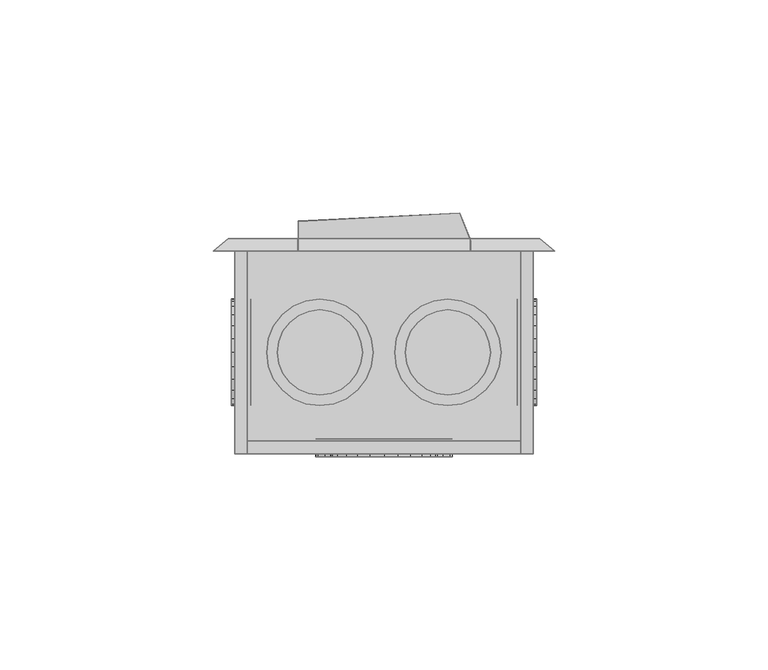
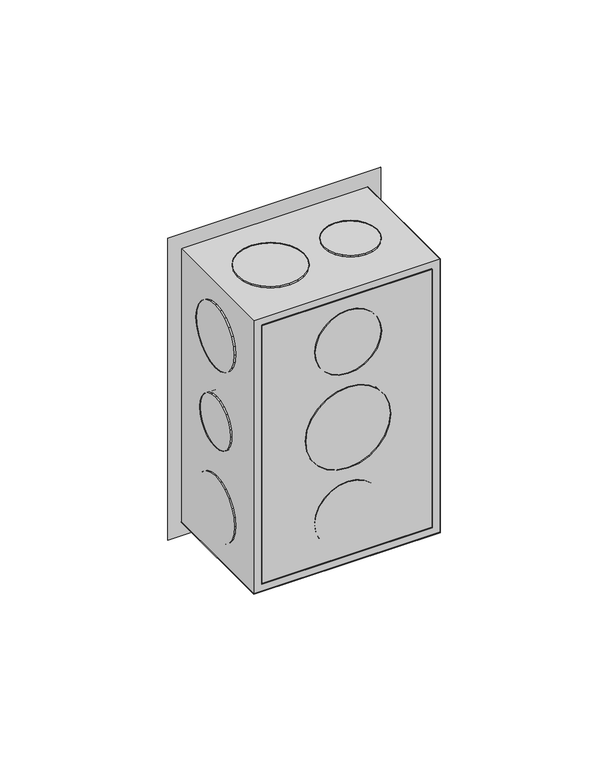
"""IFC4 building model written with IfcOpenShell, lengths in millimetres: proxy geometry,  210883 :  210883."""

from ifc_helpers import new_model, si_unit, origin, place, context, project, spatial, triangles, source, transform, mapped, element, save


def generic_models_cd19be02(model_context):
    return source(origin(), model_context, "Body", "Tessellation", [
        triangles([(10055.7001648, 29795.4999207, 1254.3000378), (10058.6999817, 29795.4999207, 1148.7000154), (10055.7001648, 29795.4999207, 1145.6999805), (10058.6999817, 29795.4999207, 1251.2999302), (10125.7005432, 29795.4999207, 1254.3000378), (10122.6995636, 29795.4999207, 1251.2999302), (10125.7005432, 29795.4999207, 1145.6999805), (10122.6995636, 29795.4999207, 1148.7000154), (10058.6999817, 29748.0004944, 1251.2999302), (10058.6999817, 29748.0004944, 1148.7000154), (10125.7005432, 29748.0004944, 1254.3000378), (10125.7005432, 29748.0004944, 1145.6999805), (10122.6995636, 29748.0004944, 1251.2999302), (10055.7001648, 29748.0004944, 1145.6999805), (10122.6995636, 29748.0004944, 1148.7000154), (10055.7001648, 29748.0004944, 1254.3000378), (10058.6999817, 29751.0003113, 1251.2999302), (10122.6995636, 29751.0003113, 1148.7000154), (10058.6999817, 29751.0003113, 1148.7000154), (10122.6995636, 29751.0003113, 1251.2999302), (10076.8000397, 29751.5002808, 1191.9999887), (10082.6996796, 29751.5002808, 1186.0999855), (10079.399881, 29751.5002808, 1188.6999722), (10075.2001373, 29751.5002808, 1195.8999687), (10086.4994476, 29751.5002808, 1184.5000105), (10074.7001678, 29751.5002808, 1200.0000092), (10090.700354, 29751.5002808, 1183.9999683), (10075.2001373, 29751.5002808, 1204.0999769), (10094.8001038, 29751.5002808, 1184.5000105), (10076.8000397, 29751.5002808, 1208.0000296), (10098.6998657, 29751.5002808, 1186.0999855), (10079.399881, 29751.5002808, 1211.2999735), (10101.9996643, 29751.5002808, 1188.6999722), (10082.6996796, 29751.5002808, 1213.9000328), (10104.4995117, 29751.5002808, 1191.9999887), (10086.4994476, 29751.5002808, 1215.5000078), (10106.1005768, 29751.5002808, 1195.8999687), (10090.700354, 29751.5002808, 1215.9999773), (10106.7005402, 29751.5002808, 1200.0000092), (10094.8001038, 29751.5002808, 1215.5000078), (10106.1005768, 29751.5002808, 1204.0999769), (10098.6998657, 29751.5002808, 1213.9000328), (10104.4995117, 29751.5002808, 1208.0000296), (10101.9996643, 29751.5002808, 1211.2999735), (10094.8001038, 29747.3005371, 1184.5000105), (10090.700354, 29747.3005371, 1183.9999683), (10086.4994476, 29747.3005371, 1184.5000105), (10082.6996796, 29747.3005371, 1186.0999855), (10079.399881, 29747.3005371, 1188.6999722), (10076.8000397, 29747.3005371, 1191.9999887), (10075.2001373, 29747.3005371, 1195.8999687), (10074.7001678, 29747.3005371, 1200.0000092), (10075.2001373, 29747.3005371, 1204.0999769), (10076.8000397, 29747.3005371, 1208.0000296), (10079.399881, 29747.3005371, 1211.2999735), (10082.6996796, 29747.3005371, 1213.9000328), (10086.4994476, 29747.3005371, 1215.5000078), (10090.700354, 29747.3005371, 1215.9999773), (10094.8001038, 29747.3005371, 1215.5000078), (10098.6998657, 29747.3005371, 1213.9000328), (10101.9996643, 29747.3005371, 1211.2999735), (10104.4995117, 29747.3005371, 1208.0000296), (10106.1005768, 29747.3005371, 1204.0999769), (10106.7005402, 29747.3005371, 1200.0000092), (10106.1005768, 29747.3005371, 1195.8999687), (10104.4995117, 29747.3005371, 1191.9999887), (10101.9996643, 29747.3005371, 1188.6999722), (10098.6998657, 29747.3005371, 1186.0999855), (10079.7998566, 29751.5002808, 1227.8000565), (10084.3995758, 29751.5002808, 1223.2000465), (10081.7997345, 29751.5002808, 1225.2000698), (10078.5999298, 29751.5002808, 1230.8000187), (10087.4005554, 29751.5002808, 1221.8999805), (10078.1999542, 29751.5002808, 1233.9999687), (10090.700354, 29751.5002808, 1221.500005), (10078.5999298, 29751.5002808, 1237.2000641), (10093.9001587, 29751.5002808, 1221.8999805), (10079.7998566, 29751.5002808, 1240.3000202), (10096.8999756, 29751.5002808, 1223.2000465), (10081.7997345, 29751.5002808, 1242.800013), (10099.4998169, 29751.5002808, 1225.2000698), (10101.4996948, 29751.5002808, 1227.8000565), (10084.3995758, 29751.5002808, 1244.8000362), (10087.4005554, 29751.5002808, 1246.0999569), (10102.6996216, 29751.5002808, 1230.8000187), (10090.700354, 29751.5002808, 1246.4999325), (10103.1995911, 29751.5002808, 1233.9999687), (10093.9001587, 29751.5002808, 1246.0999569), (10102.6996216, 29751.5002808, 1237.2000641), (10101.4996948, 29751.5002808, 1240.3000202), (10096.8999756, 29751.5002808, 1244.8000362), (10099.4998169, 29751.5002808, 1242.800013), (10102.6996216, 29747.3005371, 1230.8000187), (10101.4996948, 29747.3005371, 1227.8000565), (10099.4998169, 29747.3005371, 1225.2000698), (10096.8999756, 29747.3005371, 1223.2000465), (10093.9001587, 29747.3005371, 1221.8999805), (10090.700354, 29747.3005371, 1221.500005), (10087.4005554, 29747.3005371, 1221.8999805), (10084.3995758, 29747.3005371, 1223.2000465), (10081.7997345, 29747.3005371, 1225.2000698), (10079.7998566, 29747.3005371, 1227.8000565), (10078.5999298, 29747.3005371, 1230.8000187), (10078.1999542, 29747.3005371, 1233.9999687), (10078.5999298, 29747.3005371, 1237.2000641), (10079.7998566, 29747.3005371, 1240.3000202), (10081.7997345, 29747.3005371, 1242.800013), (10084.3995758, 29747.3005371, 1244.8000362), (10087.4005554, 29747.3005371, 1246.0999569), (10090.700354, 29747.3005371, 1246.4999325), (10093.9001587, 29747.3005371, 1246.0999569), (10096.8999756, 29747.3005371, 1244.8000362), (10099.4998169, 29747.3005371, 1242.800013), (10101.4996948, 29747.3005371, 1240.3000202), (10102.6996216, 29747.3005371, 1237.2000641), (10103.1995911, 29747.3005371, 1233.9999687), (10084.3995758, 29747.3005371, 1155.1999821), (10079.7998566, 29747.3005371, 1159.6999981), (10081.7997345, 29747.3005371, 1157.2000053), (10087.4005554, 29747.3005371, 1153.8999887), (10078.5999298, 29747.3005371, 1162.8000269), (10090.700354, 29747.3005371, 1153.5000132), (10078.1999542, 29747.3005371, 1165.9999769), (10093.9001587, 29747.3005371, 1153.8999887), (10078.5999298, 29747.3005371, 1169.1999996), (10096.8999756, 29747.3005371, 1155.1999821), (10079.7998566, 29747.3005371, 1172.2000345), (10099.4998169, 29747.3005371, 1157.2000053), (10081.7997345, 29747.3005371, 1174.8000212), (10101.4996948, 29747.3005371, 1159.6999981), (10084.3995758, 29747.3005371, 1176.7999718), (10102.6996216, 29747.3005371, 1162.8000269), (10087.4005554, 29747.3005371, 1178.0999651), (10090.700354, 29747.3005371, 1178.5000134), (10103.1995911, 29747.3005371, 1165.9999769), (10102.6996216, 29747.3005371, 1169.1999996), (10093.9001587, 29747.3005371, 1178.0999651), (10101.4996948, 29747.3005371, 1172.2000345), (10096.8999756, 29747.3005371, 1176.7999718), (10099.4998169, 29747.3005371, 1174.8000212), (10087.4005554, 29751.5002808, 1178.0999651), (10090.700354, 29751.5002808, 1178.5000134), (10084.3995758, 29751.5002808, 1176.7999718), (10081.7997345, 29751.5002808, 1174.8000212), (10079.7998566, 29751.5002808, 1172.2000345), (10078.5999298, 29751.5002808, 1169.1999996), (10078.1999542, 29751.5002808, 1165.9999769), (10078.5999298, 29751.5002808, 1162.8000269), (10079.7998566, 29751.5002808, 1159.6999981), (10081.7997345, 29751.5002808, 1157.2000053), (10084.3995758, 29751.5002808, 1155.1999821), (10087.4005554, 29751.5002808, 1153.8999887), (10090.700354, 29751.5002808, 1153.5000132), (10093.9001587, 29751.5002808, 1153.8999887), (10096.8999756, 29751.5002808, 1155.1999821), (10099.4998169, 29751.5002808, 1157.2000053), (10101.4996948, 29751.5002808, 1159.6999981), (10102.6996216, 29751.5002808, 1162.8000269), (10103.1995911, 29751.5002808, 1165.9999769), (10102.6996216, 29751.5002808, 1169.1999996), (10101.4996948, 29751.5002808, 1172.2000345), (10099.4998169, 29751.5002808, 1174.8000212), (10096.8999756, 29751.5002808, 1176.7999718), (10093.9001587, 29751.5002808, 1178.0999651), (10059.4999329, 29766.7993469, 1191.3000315), (10059.4999329, 29763.0995728, 1195.0000237), (10059.4999329, 29764.6994751, 1192.9000065), (10059.4999329, 29762.0996338, 1197.4000225), (10059.4999329, 29769.1992004, 1190.3000198), (10059.4999329, 29761.7996521, 1200.0000092), (10059.4999329, 29771.7990417, 1189.9999655), (10059.4999329, 29774.2988892, 1190.3000198), (10059.4999329, 29762.0996338, 1202.5999958), (10059.4999329, 29763.0995728, 1204.9999947), (10059.4999329, 29776.801062, 1191.3000315), (10059.4999329, 29764.6994751, 1207.1000118), (10059.4999329, 29778.8009399, 1192.9000065), (10059.4999329, 29780.4008423, 1195.0000237), (10059.4999329, 29766.7993469, 1208.6999868), (10059.4999329, 29781.4007813, 1197.4000225), (10059.4999329, 29769.1992004, 1209.6999985), (10059.4999329, 29781.8007568, 1200.0000092), (10059.4999329, 29771.7990417, 1209.9999802), (10059.4999329, 29781.4007813, 1202.5999958), (10059.4999329, 29774.2988892, 1209.6999985), (10059.4999329, 29776.801062, 1208.6999868), (10059.4999329, 29780.4008423, 1204.9999947), (10059.4999329, 29778.8009399, 1207.1000118), (10054.9002136, 29771.7990417, 1189.9999655), (10054.9002136, 29769.1992004, 1190.3000198), (10054.9002136, 29774.2988892, 1190.3000198), (10054.9002136, 29776.801062, 1191.3000315), (10054.9002136, 29778.8009399, 1192.9000065), (10054.9002136, 29780.4008423, 1195.0000237), (10054.9002136, 29781.4007813, 1197.4000225), (10054.9002136, 29781.8007568, 1200.0000092), (10054.9002136, 29781.4007813, 1202.5999958), (10054.9002136, 29780.4008423, 1204.9999947), (10054.9002136, 29778.8009399, 1207.1000118), (10054.9002136, 29776.801062, 1208.6999868), (10054.9002136, 29774.2988892, 1209.6999985), (10054.9002136, 29771.7990417, 1209.9999802), (10054.9002136, 29769.1992004, 1209.6999985), (10054.9002136, 29766.7993469, 1208.6999868), (10054.9002136, 29764.6994751, 1207.1000118), (10054.9002136, 29763.0995728, 1204.9999947), (10054.9002136, 29762.0996338, 1202.5999958), (10054.9002136, 29761.7996521, 1200.0000092), (10054.9002136, 29762.0996338, 1197.4000225), (10054.9002136, 29763.0995728, 1195.0000237), (10054.9002136, 29764.6994751, 1192.9000065), (10054.9002136, 29766.7993469, 1191.3000315), (10059.4999329, 29765.4994263, 1223.2000465), (10059.4999329, 29760.899707, 1227.8000565), (10059.4999329, 29762.899585, 1225.2000698), (10059.4999329, 29768.4992432, 1221.8999805), (10059.4999329, 29759.6997803, 1230.8000187), (10059.4999329, 29759.2998047, 1233.9999687), (10059.4999329, 29771.7990417, 1221.500005), (10059.4999329, 29774.9988464, 1221.8999805), (10059.4999329, 29759.6997803, 1237.2000641), (10059.4999329, 29760.899707, 1240.3000202), (10059.4999329, 29778.0009888, 1223.2000465), (10059.4999329, 29780.6008301, 1225.2000698), (10059.4999329, 29762.899585, 1242.800013), (10059.4999329, 29782.600708, 1227.8000565), (10059.4999329, 29765.4994263, 1244.8000362), (10059.4999329, 29783.8006348, 1230.8000187), (10059.4999329, 29768.4992432, 1246.0999569), (10059.4999329, 29784.3006042, 1233.9999687), (10059.4999329, 29771.7990417, 1246.4999325), (10059.4999329, 29783.8006348, 1237.2000641), (10059.4999329, 29774.9988464, 1246.0999569), (10059.4999329, 29782.600708, 1240.3000202), (10059.4999329, 29778.0009888, 1244.8000362), (10059.4999329, 29780.6008301, 1242.800013), (10054.9002136, 29771.7990417, 1221.500005), (10054.9002136, 29768.4992432, 1221.8999805), (10054.9002136, 29774.9988464, 1221.8999805), (10054.9002136, 29778.0009888, 1223.2000465), (10054.9002136, 29780.6008301, 1225.2000698), (10054.9002136, 29782.600708, 1227.8000565), (10054.9002136, 29783.8006348, 1230.8000187), (10054.9002136, 29784.3006042, 1233.9999687), (10054.9002136, 29783.8006348, 1237.2000641), (10054.9002136, 29782.600708, 1240.3000202), (10054.9002136, 29780.6008301, 1242.800013), (10054.9002136, 29778.0009888, 1244.8000362), (10054.9002136, 29774.9988464, 1246.0999569), (10054.9002136, 29771.7990417, 1246.4999325), (10054.9002136, 29768.4992432, 1246.0999569), (10054.9002136, 29765.4994263, 1244.8000362), (10054.9002136, 29762.899585, 1242.800013), (10054.9002136, 29760.899707, 1240.3000202), (10054.9002136, 29759.6997803, 1237.2000641), (10054.9002136, 29759.2998047, 1233.9999687), (10054.9002136, 29759.6997803, 1230.8000187), (10054.9002136, 29760.899707, 1227.8000565), (10054.9002136, 29762.899585, 1225.2000698), (10054.9002136, 29765.4994263, 1223.2000465), (10054.9002136, 29760.899707, 1159.6999981), (10054.9002136, 29765.4994263, 1155.1999821), (10054.9002136, 29762.899585, 1157.2000053), (10054.9002136, 29759.6997803, 1162.8000269), (10054.9002136, 29768.4992432, 1153.8999887), (10054.9002136, 29759.2998047, 1165.9999769), (10054.9002136, 29771.7990417, 1153.5000132), (10054.9002136, 29759.6997803, 1169.1999996), (10054.9002136, 29774.9988464, 1153.8999887), (10054.9002136, 29760.899707, 1172.2000345), (10054.9002136, 29778.0009888, 1155.1999821), (10054.9002136, 29762.899585, 1174.8000212), (10054.9002136, 29780.6008301, 1157.2000053), (10054.9002136, 29765.4994263, 1176.7999718), (10054.9002136, 29782.600708, 1159.6999981), (10054.9002136, 29768.4992432, 1178.0999651), (10054.9002136, 29783.8006348, 1162.8000269), (10054.9002136, 29771.7990417, 1178.5000134), (10054.9002136, 29784.3006042, 1165.9999769), (10054.9002136, 29774.9988464, 1178.0999651), (10054.9002136, 29783.8006348, 1169.1999996), (10054.9002136, 29778.0009888, 1176.7999718), (10054.9002136, 29782.600708, 1172.2000345), (10054.9002136, 29780.6008301, 1174.8000212), (10059.4999329, 29768.4992432, 1178.0999651), (10059.4999329, 29771.7990417, 1178.5000134), (10059.4999329, 29774.9988464, 1178.0999651), (10059.4999329, 29778.0009888, 1176.7999718), (10059.4999329, 29780.6008301, 1174.8000212), (10059.4999329, 29782.600708, 1172.2000345), (10059.4999329, 29783.8006348, 1169.1999996), (10059.4999329, 29784.3006042, 1165.9999769), (10059.4999329, 29783.8006348, 1162.8000269), (10059.4999329, 29782.600708, 1159.6999981), (10059.4999329, 29780.6008301, 1157.2000053), (10059.4999329, 29778.0009888, 1155.1999821), (10059.4999329, 29774.9988464, 1153.8999887), (10059.4999329, 29771.7990417, 1153.5000132), (10059.4999329, 29768.4992432, 1153.8999887), (10059.4999329, 29765.4994263, 1155.1999821), (10059.4999329, 29762.899585, 1157.2000053), (10059.4999329, 29760.899707, 1159.6999981), (10059.4999329, 29759.6997803, 1162.8000269), (10059.4999329, 29759.2998047, 1165.9999769), (10059.4999329, 29759.6997803, 1169.1999996), (10059.4999329, 29760.899707, 1172.2000345), (10059.4999329, 29762.899585, 1174.8000212), (10059.4999329, 29765.4994263, 1176.7999718), (10121.8996124, 29763.0995728, 1195.0000237), (10121.8996124, 29766.7993469, 1191.3000315), (10121.8996124, 29764.6994751, 1192.9000065), (10121.8996124, 29762.0996338, 1197.4000225), (10121.8996124, 29769.1992004, 1190.3000198), (10121.8996124, 29761.7996521, 1200.0000092), (10121.8996124, 29771.7990417, 1189.9999655), (10121.8996124, 29762.0996338, 1202.5999958), (10121.8996124, 29774.2988892, 1190.3000198), (10121.8996124, 29763.0995728, 1204.9999947), (10121.8996124, 29776.801062, 1191.3000315), (10121.8996124, 29764.6994751, 1207.1000118), (10121.8996124, 29778.8009399, 1192.9000065), (10121.8996124, 29766.7993469, 1208.6999868), (10121.8996124, 29780.4008423, 1195.0000237), (10121.8996124, 29769.1992004, 1209.6999985), (10121.8996124, 29781.4007813, 1197.4000225), (10121.8996124, 29781.8007568, 1200.0000092), (10121.8996124, 29771.7990417, 1209.9999802), (10121.8996124, 29774.2988892, 1209.6999985), (10121.8996124, 29781.4007813, 1202.5999958), (10121.8996124, 29776.801062, 1208.6999868), (10121.8996124, 29780.4008423, 1204.9999947), (10121.8996124, 29778.8009399, 1207.1000118), (10126.5004944, 29769.1992004, 1209.6999985), (10126.5004944, 29771.7990417, 1209.9999802), (10126.5004944, 29774.2988892, 1209.6999985), (10126.5004944, 29776.801062, 1208.6999868), (10126.5004944, 29778.8009399, 1207.1000118), (10126.5004944, 29780.4008423, 1204.9999947), (10126.5004944, 29781.4007813, 1202.5999958), (10126.5004944, 29781.8007568, 1200.0000092), (10126.5004944, 29781.4007813, 1197.4000225), (10126.5004944, 29780.4008423, 1195.0000237), (10126.5004944, 29778.8009399, 1192.9000065), (10126.5004944, 29776.801062, 1191.3000315), (10126.5004944, 29774.2988892, 1190.3000198), (10126.5004944, 29771.7990417, 1189.9999655), (10126.5004944, 29769.1992004, 1190.3000198), (10126.5004944, 29766.7993469, 1191.3000315), (10126.5004944, 29764.6994751, 1192.9000065), (10126.5004944, 29763.0995728, 1195.0000237), (10126.5004944, 29762.0996338, 1197.4000225), (10126.5004944, 29761.7996521, 1200.0000092), (10126.5004944, 29762.0996338, 1202.5999958), (10126.5004944, 29763.0995728, 1204.9999947), (10126.5004944, 29764.6994751, 1207.1000118), (10126.5004944, 29766.7993469, 1208.6999868), (10121.8996124, 29760.899707, 1159.6999981), (10121.8996124, 29765.4994263, 1155.1999821), (10121.8996124, 29762.899585, 1157.2000053), (10121.8996124, 29759.6997803, 1162.8000269), (10121.8996124, 29768.4992432, 1153.8999887), (10121.8996124, 29759.2998047, 1165.9999769), (10121.8996124, 29771.7990417, 1153.5000132), (10121.8996124, 29759.6997803, 1169.1999996), (10121.8996124, 29774.9988464, 1153.8999887), (10121.8996124, 29760.899707, 1172.2000345), (10121.8996124, 29778.0009888, 1155.1999821), (10121.8996124, 29762.899585, 1174.8000212), (10121.8996124, 29780.6008301, 1157.2000053), (10121.8996124, 29765.4994263, 1176.7999718), (10121.8996124, 29782.600708, 1159.6999981), (10121.8996124, 29768.4992432, 1178.0999651), (10121.8996124, 29783.8006348, 1162.8000269), (10121.8996124, 29771.7990417, 1178.5000134), (10121.8996124, 29784.3006042, 1165.9999769), (10121.8996124, 29774.9988464, 1178.0999651), (10121.8996124, 29783.8006348, 1169.1999996), (10121.8996124, 29778.0009888, 1176.7999718), (10121.8996124, 29782.600708, 1172.2000345), (10121.8996124, 29780.6008301, 1174.8000212), (10126.5004944, 29768.4992432, 1178.0999651), (10126.5004944, 29771.7990417, 1178.5000134), (10126.5004944, 29774.9988464, 1178.0999651), (10126.5004944, 29778.0009888, 1176.7999718), (10126.5004944, 29780.6008301, 1174.8000212), (10126.5004944, 29782.600708, 1172.2000345), (10126.5004944, 29783.8006348, 1169.1999996), (10126.5004944, 29784.3006042, 1165.9999769), (10126.5004944, 29783.8006348, 1162.8000269), (10126.5004944, 29782.600708, 1159.6999981), (10126.5004944, 29780.6008301, 1157.2000053), (10126.5004944, 29778.0009888, 1155.1999821), (10126.5004944, 29774.9988464, 1153.8999887), (10126.5004944, 29771.7990417, 1153.5000132), (10126.5004944, 29768.4992432, 1153.8999887), (10126.5004944, 29765.4994263, 1155.1999821), (10126.5004944, 29762.899585, 1157.2000053), (10126.5004944, 29760.899707, 1159.6999981), (10126.5004944, 29759.6997803, 1162.8000269), (10126.5004944, 29759.2998047, 1165.9999769), (10126.5004944, 29759.6997803, 1169.1999996), (10126.5004944, 29760.899707, 1172.2000345), (10126.5004944, 29762.899585, 1174.8000212), (10126.5004944, 29765.4994263, 1176.7999718), (10126.5004944, 29765.4994263, 1223.2000465), (10126.5004944, 29760.899707, 1227.8000565), (10126.5004944, 29762.899585, 1225.2000698), (10126.5004944, 29768.4992432, 1221.8999805), (10126.5004944, 29759.6997803, 1230.8000187), (10126.5004944, 29759.2998047, 1233.9999687), (10126.5004944, 29771.7990417, 1221.500005), (10126.5004944, 29774.9988464, 1221.8999805), (10126.5004944, 29759.6997803, 1237.2000641), (10126.5004944, 29760.899707, 1240.3000202), (10126.5004944, 29778.0009888, 1223.2000465), (10126.5004944, 29780.6008301, 1225.2000698), (10126.5004944, 29762.899585, 1242.800013), (10126.5004944, 29782.600708, 1227.8000565), (10126.5004944, 29765.4994263, 1244.8000362), (10126.5004944, 29783.8006348, 1230.8000187), (10126.5004944, 29768.4992432, 1246.0999569), (10126.5004944, 29784.3006042, 1233.9999687), (10126.5004944, 29771.7990417, 1246.4999325), (10126.5004944, 29783.8006348, 1237.2000641), (10126.5004944, 29774.9988464, 1246.0999569), (10126.5004944, 29782.600708, 1240.3000202), (10126.5004944, 29778.0009888, 1244.8000362), (10126.5004944, 29780.6008301, 1242.800013), (10121.8996124, 29771.7990417, 1221.500005), (10121.8996124, 29768.4992432, 1221.8999805), (10121.8996124, 29774.9988464, 1221.8999805), (10121.8996124, 29778.0009888, 1223.2000465), (10121.8996124, 29780.6008301, 1225.2000698), (10121.8996124, 29782.600708, 1227.8000565), (10121.8996124, 29783.8006348, 1230.8000187), (10121.8996124, 29784.3006042, 1233.9999687), (10121.8996124, 29783.8006348, 1237.2000641), (10121.8996124, 29782.600708, 1240.3000202), (10121.8996124, 29780.6008301, 1242.800013), (10121.8996124, 29778.0009888, 1244.8000362), (10121.8996124, 29774.9988464, 1246.0999569), (10121.8996124, 29771.7990417, 1246.4999325), (10121.8996124, 29768.4992432, 1246.0999569), (10121.8996124, 29765.4994263, 1244.8000362), (10121.8996124, 29762.899585, 1242.800013), (10121.8996124, 29760.899707, 1240.3000202), (10121.8996124, 29759.6997803, 1237.2000641), (10121.8996124, 29759.2998047, 1233.9999687), (10121.8996124, 29759.6997803, 1230.8000187), (10121.8996124, 29760.899707, 1227.8000565), (10121.8996124, 29762.899585, 1225.2000698), (10121.8996124, 29765.4994263, 1223.2000465), (10064.7996094, 29765.4994263, 1250.9999485), (10069.4004913, 29760.899707, 1250.9999485), (10066.7994873, 29762.899585, 1250.9999485), (10063.5996826, 29768.4992432, 1250.9999485), (10072.4003082, 29759.6997803, 1250.9999485), (10075.7001068, 29759.2998047, 1250.9999485), (10063.199707, 29771.7990417, 1250.9999485), (10063.5996826, 29774.9988464, 1250.9999485), (10078.8999115, 29759.6997803, 1250.9999485), (10081.8997284, 29760.899707, 1250.9999485), (10064.7996094, 29778.0009888, 1250.9999485), (10066.7994873, 29780.6008301, 1250.9999485), (10084.4995697, 29762.899585, 1250.9999485), (10086.4994476, 29765.4994263, 1250.9999485), (10069.4004913, 29782.600708, 1250.9999485), (10072.4003082, 29783.8006348, 1250.9999485), (10087.7005371, 29768.4992432, 1250.9999485), (10075.7001068, 29784.3006042, 1250.9999485), (10088.2005066, 29771.7990417, 1250.9999485), (10078.8999115, 29783.8006348, 1250.9999485), (10087.7005371, 29774.9988464, 1250.9999485), (10086.4994476, 29778.0009888, 1250.9999485), (10081.8997284, 29782.600708, 1250.9999485), (10084.4995697, 29780.6008301, 1250.9999485), (10075.7001068, 29759.2998047, 1255.1999828), (10078.8999115, 29759.6997803, 1255.1999828), (10072.4003082, 29759.6997803, 1255.1999828), (10069.4004913, 29760.899707, 1255.1999828), (10066.7994873, 29762.899585, 1255.1999828), (10064.7996094, 29765.4994263, 1255.1999828), (10063.5996826, 29768.4992432, 1255.1999828), (10063.199707, 29771.7990417, 1255.1999828), (10063.5996826, 29774.9988464, 1255.1999828), (10064.7996094, 29778.0009888, 1255.1999828), (10066.7994873, 29780.6008301, 1255.1999828), (10069.4004913, 29782.600708, 1255.1999828), (10072.4003082, 29783.8006348, 1255.1999828), (10075.7001068, 29784.3006042, 1255.1999828), (10078.8999115, 29783.8006348, 1255.1999828), (10081.8997284, 29782.600708, 1255.1999828), (10084.4995697, 29780.6008301, 1255.1999828), (10086.4994476, 29778.0009888, 1255.1999828), (10087.7005371, 29774.9988464, 1255.1999828), (10088.2005066, 29771.7990417, 1255.1999828), (10087.7005371, 29768.4992432, 1255.1999828), (10086.4994476, 29765.4994263, 1255.1999828), (10084.4995697, 29762.899585, 1255.1999828), (10081.8997284, 29760.899707, 1255.1999828), (10096.9999695, 29766.7993469, 1250.9999485), (10100.6997437, 29763.0995728, 1250.9999485), (10098.5998718, 29764.6994751, 1250.9999485), (10103.0995972, 29762.0996338, 1250.9999485), (10096.0000305, 29769.1992004, 1250.9999485), (10105.6994385, 29761.7996521, 1250.9999485), (10095.7000488, 29771.7990417, 1250.9999485), (10096.0000305, 29774.2988892, 1250.9999485), (10108.3004425, 29762.0996338, 1250.9999485), (10110.700296, 29763.0995728, 1250.9999485), (10096.9999695, 29776.801062, 1250.9999485), (10112.700174, 29764.6994751, 1250.9999485), (10098.5998718, 29778.8009399, 1250.9999485), (10100.6997437, 29780.4008423, 1250.9999485), (10114.3000763, 29766.7993469, 1250.9999485), (10115.3000153, 29769.1992004, 1250.9999485), (10103.0995972, 29781.4007813, 1250.9999485), (10105.6994385, 29781.8007568, 1250.9999485), (10115.6999908, 29771.7990417, 1250.9999485), (10108.3004425, 29781.4007813, 1250.9999485), (10115.3000153, 29774.2988892, 1250.9999485), (10110.700296, 29780.4008423, 1250.9999485), (10114.3000763, 29776.801062, 1250.9999485), (10112.700174, 29778.8009399, 1250.9999485), (10108.3004425, 29762.0996338, 1255.1999828), (10110.700296, 29763.0995728, 1255.1999828), (10105.6994385, 29761.7996521, 1255.1999828), (10103.0995972, 29762.0996338, 1255.1999828), (10100.6997437, 29763.0995728, 1255.1999828), (10098.5998718, 29764.6994751, 1255.1999828), (10096.9999695, 29766.7993469, 1255.1999828), (10096.0000305, 29769.1992004, 1255.1999828), (10095.7000488, 29771.7990417, 1255.1999828), (10096.0000305, 29774.2988892, 1255.1999828), (10096.9999695, 29776.801062, 1255.1999828), (10098.5998718, 29778.8009399, 1255.1999828), (10100.6997437, 29780.4008423, 1255.1999828), (10103.0995972, 29781.4007813, 1255.1999828), (10105.6994385, 29781.8007568, 1255.1999828), (10108.3004425, 29781.4007813, 1255.1999828), (10110.700296, 29780.4008423, 1255.1999828), (10112.700174, 29778.8009399, 1255.1999828), (10114.3000763, 29776.801062, 1255.1999828), (10115.3000153, 29774.2988892, 1255.1999828), (10115.6999908, 29771.7990417, 1255.1999828), (10115.3000153, 29769.1992004, 1255.1999828), (10114.3000763, 29766.7993469, 1255.1999828), (10112.700174, 29764.6994751, 1255.1999828), (10066.9994751, 29766.7993469, 1144.8000355), (10070.700412, 29763.0995728, 1144.8000355), (10068.6005402, 29764.6994751, 1144.8000355), (10073.1002655, 29762.0996338, 1144.8000355), (10065.9995361, 29769.1992004, 1144.8000355), (10075.7001068, 29761.7996521, 1144.8000355), (10065.6995544, 29771.7990417, 1144.8000355), (10065.9995361, 29774.2988892, 1144.8000355), (10078.2999481, 29762.0996338, 1144.8000355), (10080.6998016, 29763.0995728, 1144.8000355), (10066.9994751, 29776.801062, 1144.8000355), (10082.6996796, 29764.6994751, 1144.8000355), (10068.6005402, 29778.8009399, 1144.8000355), (10070.700412, 29780.4008423, 1144.8000355), (10084.2995819, 29766.7993469, 1144.8000355), (10085.2995209, 29769.1992004, 1144.8000355), (10073.1002655, 29781.4007813, 1144.8000355), (10075.7001068, 29781.8007568, 1144.8000355), (10085.6994965, 29771.7990417, 1144.8000355), (10078.2999481, 29781.4007813, 1144.8000355), (10085.2995209, 29774.2988892, 1144.8000355), (10080.6998016, 29780.4008423, 1144.8000355), (10084.2995819, 29776.801062, 1144.8000355), (10082.6996796, 29778.8009399, 1144.8000355), (10073.1002655, 29762.0996338, 1149.099991), (10075.7001068, 29761.7996521, 1149.099991), (10070.700412, 29763.0995728, 1149.099991), (10068.6005402, 29764.6994751, 1149.099991), (10066.9994751, 29766.7993469, 1149.099991), (10065.9995361, 29769.1992004, 1149.099991), (10065.6995544, 29771.7990417, 1149.099991), (10065.9995361, 29774.2988892, 1149.099991), (10066.9994751, 29776.801062, 1149.099991), (10068.6005402, 29778.8009399, 1149.099991), (10070.700412, 29780.4008423, 1149.099991), (10073.1002655, 29781.4007813, 1149.099991), (10075.7001068, 29781.8007568, 1149.099991), (10078.2999481, 29781.4007813, 1149.099991), (10080.6998016, 29780.4008423, 1149.099991), (10082.6996796, 29778.8009399, 1149.099991), (10084.2995819, 29776.801062, 1149.099991), (10085.2995209, 29774.2988892, 1149.099991), (10085.6994965, 29771.7990417, 1149.099991), (10085.2995209, 29769.1992004, 1149.099991), (10084.2995819, 29766.7993469, 1149.099991), (10082.6996796, 29764.6994751, 1149.099991), (10080.6998016, 29763.0995728, 1149.099991), (10078.2999481, 29762.0996338, 1149.099991), (10094.8001038, 29765.4994263, 1144.8000355), (10099.399823, 29760.899707, 1144.8000355), (10096.7999817, 29762.899585, 1144.8000355), (10093.600177, 29768.4992432, 1144.8000355), (10102.3996399, 29759.6997803, 1144.8000355), (10105.6994385, 29759.2998047, 1144.8000355), (10093.2002014, 29771.7990417, 1144.8000355), (10093.600177, 29774.9988464, 1144.8000355), (10108.9004059, 29759.6997803, 1144.8000355), (10111.9002228, 29760.899707, 1144.8000355), (10094.8001038, 29778.0009888, 1144.8000355), (10096.7999817, 29780.6008301, 1144.8000355), (10114.5000641, 29762.899585, 1144.8000355), (10116.499942, 29765.4994263, 1144.8000355), (10099.399823, 29782.600708, 1144.8000355), (10102.3996399, 29783.8006348, 1144.8000355), (10117.6998688, 29768.4992432, 1144.8000355), (10105.6994385, 29784.3006042, 1144.8000355), (10118.1998383, 29771.7990417, 1144.8000355), (10108.9004059, 29783.8006348, 1144.8000355), (10117.6998688, 29774.9988464, 1144.8000355), (10116.499942, 29778.0009888, 1144.8000355), (10111.9002228, 29782.600708, 1144.8000355), (10114.5000641, 29780.6008301, 1144.8000355), (10108.9004059, 29759.6997803, 1149.099991), (10111.9002228, 29760.899707, 1149.099991), (10105.6994385, 29759.2998047, 1149.099991), (10102.3996399, 29759.6997803, 1149.099991), (10099.399823, 29760.899707, 1149.099991), (10096.7999817, 29762.899585, 1149.099991), (10094.8001038, 29765.4994263, 1149.099991), (10093.600177, 29768.4992432, 1149.099991), (10093.2002014, 29771.7990417, 1149.099991), (10093.600177, 29774.9988464, 1149.099991), (10094.8001038, 29778.0009888, 1149.099991), (10096.7999817, 29780.6008301, 1149.099991), (10099.399823, 29782.600708, 1149.099991), (10102.3996399, 29783.8006348, 1149.099991), (10105.6994385, 29784.3006042, 1149.099991), (10108.9004059, 29783.8006348, 1149.099991), (10111.9002228, 29782.600708, 1149.099991), (10114.5000641, 29780.6008301, 1149.099991), (10116.499942, 29778.0009888, 1149.099991), (10117.6998688, 29774.9988464, 1149.099991), (10118.1998383, 29771.7990417, 1149.099991), (10117.6998688, 29768.4992432, 1149.099991), (10116.499942, 29765.4994263, 1149.099991), (10114.5000641, 29762.899585, 1149.099991), (10130.700238, 29795.4999207, 1139.9999651), (10070.5004242, 29795.4999207, 1188.2999966), (10050.70047, 29795.4999207, 1139.9999651), (10110.9002838, 29795.4999207, 1188.2999966), (10130.700238, 29795.4999207, 1259.9999805), (10110.9002838, 29795.4999207, 1211.7000217), (10050.70047, 29795.4999207, 1259.9999805), (10070.5004242, 29795.4999207, 1211.7000217), (10110.9002838, 29798.4997375, 1188.2999966), (10110.9002838, 29798.4997375, 1211.7000217), (10070.5004242, 29798.4997375, 1188.2999966), (10070.5004242, 29798.4997375, 1211.7000217), (10054.2002563, 29798.4997375, 1143.4999695), (10054.2002563, 29798.4997375, 1256.5000488), (10127.2004517, 29798.4997375, 1143.4999695), (10127.2004517, 29798.4997375, 1256.5000488), (10070.6004181, 29802.4994934, 1188.1000088), (10111.0002777, 29795.4999207, 1188.1000088), (10070.6004181, 29795.4999207, 1188.1000088), (10108.4004364, 29804.3993774, 1188.1000088), (10111.0002777, 29797.9997681, 1188.1000088), (10070.6004181, 29795.4999207, 1211.500034), (10111.0002777, 29795.4999207, 1211.500034), (10070.6004181, 29802.4994934, 1211.500034), (10108.4004364, 29804.3993774, 1211.500034), (10111.0002777, 29797.9997681, 1211.500034)], [[1, 2, 3], [2, 1, 4], [5, 4, 1], [4, 5, 6], [3, 2, 7], [7, 2, 8], [7, 8, 6], [7, 6, 5], [2, 9, 10], [9, 2, 4], [7, 11, 12], [11, 7, 5], [4, 13, 9], [13, 4, 6], [3, 12, 14], [12, 3, 7], [13, 8, 15], [8, 13, 6], [16, 3, 14], [3, 16, 1], [15, 2, 10], [2, 15, 8], [11, 1, 16], [1, 11, 5], [12, 10, 14], [10, 12, 15], [11, 15, 12], [15, 11, 13], [14, 10, 16], [16, 10, 9], [16, 9, 13], [16, 13, 11], [17, 18, 19], [18, 17, 20], [18, 13, 15], [13, 18, 20], [19, 15, 10], [15, 19, 18], [9, 19, 10], [19, 9, 17], [13, 17, 9], [17, 13, 20], [15, 9, 10], [9, 15, 13], [21, 22, 23], [22, 21, 24], [25, 22, 24], [25, 24, 26], [27, 25, 26], [27, 26, 28], [29, 27, 28], [29, 28, 30], [31, 29, 30], [31, 30, 32], [31, 32, 33], [33, 32, 34], [33, 34, 35], [35, 34, 36], [35, 36, 37], [37, 36, 38], [37, 38, 39], [39, 38, 40], [39, 40, 41], [41, 40, 42], [41, 42, 43], [43, 42, 44], [27, 45, 46], [45, 27, 29], [25, 46, 47], [46, 25, 27], [22, 47, 48], [47, 22, 25], [23, 48, 49], [48, 23, 22], [50, 23, 49], [23, 50, 21], [51, 21, 50], [21, 51, 24], [52, 24, 51], [24, 52, 26], [53, 26, 52], [26, 53, 28], [54, 28, 53], [28, 54, 30], [55, 30, 54], [30, 55, 32], [56, 32, 55], [32, 56, 34], [57, 34, 56], [34, 57, 36], [58, 36, 57], [36, 58, 38], [59, 38, 58], [38, 59, 40], [60, 40, 59], [40, 60, 42], [61, 42, 60], [42, 61, 44], [43, 61, 62], [61, 43, 44], [41, 62, 63], [62, 41, 43], [39, 63, 64], [63, 39, 41], [37, 64, 65], [64, 37, 39], [35, 65, 66], [65, 35, 37], [33, 66, 67], [66, 33, 35], [31, 67, 68], [67, 31, 33], [29, 68, 45], [68, 29, 31], [48, 50, 49], [50, 48, 47], [51, 50, 47], [51, 47, 46], [52, 51, 46], [52, 46, 45], [53, 52, 45], [53, 45, 68], [54, 53, 68], [54, 68, 67], [54, 67, 55], [55, 67, 66], [55, 66, 56], [56, 66, 65], [56, 65, 57], [57, 65, 64], [57, 64, 58], [58, 64, 63], [58, 63, 59], [59, 63, 62], [59, 62, 60], [60, 62, 61], [69, 70, 71], [70, 69, 72], [73, 70, 72], [73, 72, 74], [75, 73, 74], [75, 74, 76], [77, 75, 76], [77, 76, 78], [79, 77, 78], [79, 78, 80], [81, 79, 80], [81, 80, 82], [82, 80, 83], [82, 83, 84], [82, 84, 85], [85, 84, 86], [85, 86, 87], [87, 86, 88], [87, 88, 89], [89, 88, 90], [90, 88, 91], [90, 91, 92], [82, 93, 94], [93, 82, 85], [81, 94, 95], [94, 81, 82], [79, 95, 96], [95, 79, 81], [77, 96, 97], [96, 77, 79], [75, 97, 98], [97, 75, 77], [73, 98, 99], [98, 73, 75], [70, 99, 100], [99, 70, 73], [71, 100, 101], [100, 71, 70], [102, 71, 101], [71, 102, 69], [103, 69, 102], [69, 103, 72], [104, 72, 103], [72, 104, 74], [105, 74, 104], [74, 105, 76], [106, 76, 105], [76, 106, 78], [107, 78, 106], [78, 107, 80], [108, 80, 107], [80, 108, 83], [109, 83, 108], [83, 109, 84], [110, 84, 109], [84, 110, 86], [111, 86, 110], [86, 111, 88], [112, 88, 111], [88, 112, 91], [113, 91, 112], [91, 113, 92], [90, 113, 114], [113, 90, 92], [89, 114, 115], [114, 89, 90], [87, 115, 116], [115, 87, 89], [85, 116, 93], [116, 85, 87], [100, 102, 101], [102, 100, 99], [103, 102, 99], [103, 99, 98], [104, 103, 98], [104, 98, 97], [105, 104, 97], [106, 105, 97], [106, 97, 96], [106, 96, 95], [106, 95, 107], [107, 95, 94], [107, 94, 108], [108, 94, 93], [108, 93, 109], [109, 93, 116], [109, 116, 110], [110, 116, 115], [110, 115, 111], [111, 115, 114], [111, 114, 112], [112, 114, 113], [117, 118, 119], [118, 117, 120], [121, 118, 120], [121, 120, 122], [123, 121, 122], [123, 122, 124], [125, 123, 124], [125, 124, 126], [127, 125, 126], [127, 126, 128], [127, 128, 129], [129, 128, 130], [129, 130, 131], [131, 130, 132], [131, 132, 133], [133, 132, 134], [134, 132, 135], [134, 135, 136], [134, 136, 137], [137, 136, 138], [137, 138, 139], [139, 138, 140], [134, 141, 133], [141, 134, 142], [133, 143, 131], [143, 133, 141], [131, 144, 129], [144, 131, 143], [129, 145, 127], [145, 129, 144], [127, 146, 125], [146, 127, 145], [125, 147, 123], [147, 125, 146], [123, 148, 121], [148, 123, 147], [121, 149, 118], [149, 121, 148], [118, 150, 119], [150, 118, 149], [150, 117, 119], [117, 150, 151], [151, 120, 117], [120, 151, 152], [152, 122, 120], [122, 152, 153], [153, 124, 122], [124, 153, 154], [154, 126, 124], [126, 154, 155], [155, 128, 126], [128, 155, 156], [156, 130, 128], [130, 156, 157], [157, 132, 130], [132, 157, 158], [158, 135, 132], [135, 158, 159], [159, 136, 135], [136, 159, 160], [160, 138, 136], [138, 160, 161], [161, 140, 138], [140, 161, 162], [140, 163, 139], [163, 140, 162], [139, 164, 137], [164, 139, 163], [137, 142, 134], [142, 137, 164], [149, 151, 150], [151, 149, 148], [152, 151, 148], [153, 152, 148], [153, 148, 147], [153, 147, 146], [154, 153, 146], [154, 146, 145], [155, 154, 145], [155, 145, 144], [156, 155, 144], [156, 144, 157], [157, 144, 143], [157, 143, 141], [157, 141, 158], [158, 141, 142], [158, 142, 159], [159, 142, 164], [159, 164, 160], [160, 164, 163], [160, 163, 161], [161, 163, 162], [165, 166, 167], [168, 166, 165], [168, 165, 169], [170, 168, 169], [170, 169, 171], [170, 171, 172], [173, 170, 172], [174, 173, 172], [174, 172, 175], [176, 174, 175], [176, 175, 177], [176, 177, 178], [176, 178, 179], [179, 178, 180], [179, 180, 181], [181, 180, 182], [181, 182, 183], [183, 182, 184], [183, 184, 185], [185, 184, 186], [186, 184, 187], [186, 187, 188], [189, 169, 190], [169, 189, 171], [191, 171, 189], [171, 191, 172], [192, 172, 191], [172, 192, 175], [193, 175, 192], [175, 193, 177], [194, 177, 193], [177, 194, 178], [195, 178, 194], [178, 195, 180], [196, 180, 195], [180, 196, 182], [197, 182, 196], [182, 197, 184], [198, 184, 197], [184, 198, 187], [199, 187, 198], [187, 199, 188], [186, 199, 200], [199, 186, 188], [185, 200, 201], [200, 185, 186], [183, 201, 202], [201, 183, 185], [181, 202, 203], [202, 181, 183], [179, 203, 204], [203, 179, 181], [176, 204, 205], [204, 176, 179], [174, 205, 206], [205, 174, 176], [173, 206, 207], [206, 173, 174], [170, 207, 208], [207, 170, 173], [168, 208, 209], [208, 168, 170], [166, 209, 210], [209, 166, 168], [167, 210, 211], [210, 167, 166], [212, 167, 211], [167, 212, 165], [190, 165, 212], [165, 190, 169], [210, 212, 211], [212, 210, 209], [190, 212, 209], [190, 209, 208], [189, 190, 208], [189, 208, 207], [191, 189, 207], [191, 207, 206], [192, 191, 206], [192, 206, 205], [192, 205, 193], [193, 205, 204], [193, 204, 194], [194, 204, 203], [194, 203, 195], [195, 203, 196], [196, 203, 202], [196, 202, 201], [196, 201, 197], [197, 201, 200], [197, 200, 198], [198, 200, 199], [213, 214, 215], [214, 213, 216], [217, 214, 216], [218, 217, 216], [218, 216, 219], [218, 219, 220], [221, 218, 220], [222, 221, 220], [222, 220, 223], [222, 223, 224], [222, 224, 225], [225, 224, 226], [225, 226, 227], [227, 226, 228], [227, 228, 229], [229, 228, 230], [229, 230, 231], [231, 230, 232], [231, 232, 233], [233, 232, 234], [233, 234, 235], [235, 234, 236], [237, 216, 238], [216, 237, 219], [239, 219, 237], [219, 239, 220], [240, 220, 239], [220, 240, 223], [241, 223, 240], [223, 241, 224], [242, 224, 241], [224, 242, 226], [243, 226, 242], [226, 243, 228], [244, 228, 243], [228, 244, 230], [245, 230, 244], [230, 245, 232], [246, 232, 245], [232, 246, 234], [247, 234, 246], [234, 247, 236], [235, 247, 248], [247, 235, 236], [233, 248, 249], [248, 233, 235], [231, 249, 250], [249, 231, 233], [229, 250, 251], [250, 229, 231], [227, 251, 252], [251, 227, 229], [225, 252, 253], [252, 225, 227], [222, 253, 254], [253, 222, 225], [221, 254, 255], [254, 221, 222], [218, 255, 256], [255, 218, 221], [217, 256, 257], [256, 217, 218], [214, 257, 258], [257, 214, 217], [215, 258, 259], [258, 215, 214], [260, 215, 259], [215, 260, 213], [238, 213, 260], [213, 238, 216], [258, 260, 259], [260, 258, 257], [238, 260, 257], [238, 257, 256], [237, 238, 256], [237, 256, 255], [239, 237, 255], [239, 255, 254], [240, 239, 254], [240, 254, 253], [241, 240, 253], [241, 253, 252], [241, 252, 242], [242, 252, 251], [242, 251, 243], [243, 251, 244], [244, 251, 250], [244, 250, 249], [244, 249, 245], [245, 249, 246], [246, 249, 248], [246, 248, 247], [261, 262, 263], [262, 261, 264], [265, 262, 264], [265, 264, 266], [267, 265, 266], [267, 266, 268], [269, 267, 268], [269, 268, 270], [271, 269, 270], [271, 270, 272], [273, 271, 272], [273, 272, 274], [273, 274, 275], [275, 274, 276], [275, 276, 277], [277, 276, 278], [277, 278, 279], [279, 278, 280], [279, 280, 281], [281, 280, 282], [281, 282, 283], [283, 282, 284], [285, 278, 276], [278, 285, 286], [286, 280, 278], [280, 286, 287], [287, 282, 280], [282, 287, 288], [288, 284, 282], [284, 288, 289], [284, 290, 283], [290, 284, 289], [283, 291, 281], [291, 283, 290], [281, 292, 279], [292, 281, 291], [279, 293, 277], [293, 279, 292], [277, 294, 275], [294, 277, 293], [275, 295, 273], [295, 275, 294], [273, 296, 271], [296, 273, 295], [271, 297, 269], [297, 271, 296], [269, 298, 267], [298, 269, 297], [267, 299, 265], [299, 267, 298], [265, 300, 262], [300, 265, 299], [262, 301, 263], [301, 262, 300], [301, 261, 263], [261, 301, 302], [302, 264, 261], [264, 302, 303], [303, 266, 264], [266, 303, 304], [304, 268, 266], [268, 304, 305], [305, 270, 268], [270, 305, 306], [306, 272, 270], [272, 306, 307], [307, 274, 272], [274, 307, 308], [308, 276, 274], [276, 308, 285], [300, 302, 301], [302, 300, 299], [303, 302, 299], [303, 299, 298], [304, 303, 298], [304, 298, 297], [305, 304, 297], [305, 297, 296], [306, 305, 296], [306, 296, 295], [306, 295, 307], [307, 295, 294], [307, 294, 308], [308, 294, 293], [308, 293, 285], [285, 293, 286], [286, 293, 292], [286, 292, 291], [286, 291, 287], [287, 291, 288], [288, 291, 290], [288, 290, 289], [309, 310, 311], [310, 309, 312], [313, 310, 312], [313, 312, 314], [315, 313, 314], [315, 314, 316], [317, 315, 316], [317, 316, 318], [319, 317, 318], [319, 318, 320], [319, 320, 321], [321, 320, 322], [321, 322, 323], [323, 322, 324], [323, 324, 325], [325, 324, 326], [326, 324, 327], [326, 327, 328], [326, 328, 329], [329, 328, 330], [329, 330, 331], [331, 330, 332], [333, 327, 324], [327, 333, 334], [334, 328, 327], [328, 334, 335], [335, 330, 328], [330, 335, 336], [336, 332, 330], [332, 336, 337], [332, 338, 331], [338, 332, 337], [331, 339, 329], [339, 331, 338], [329, 340, 326], [340, 329, 339], [326, 341, 325], [341, 326, 340], [325, 342, 323], [342, 325, 341], [323, 343, 321], [343, 323, 342], [321, 344, 319], [344, 321, 343], [319, 345, 317], [345, 319, 344], [317, 346, 315], [346, 317, 345], [315, 347, 313], [347, 315, 346], [313, 348, 310], [348, 313, 347], [310, 349, 311], [349, 310, 348], [349, 309, 311], [309, 349, 350], [350, 312, 309], [312, 350, 351], [351, 314, 312], [314, 351, 352], [352, 316, 314], [316, 352, 353], [353, 318, 316], [318, 353, 354], [354, 320, 318], [320, 354, 355], [355, 322, 320], [322, 355, 356], [356, 324, 322], [324, 356, 333], [348, 350, 349], [351, 350, 348], [351, 348, 347], [352, 351, 347], [352, 347, 346], [352, 346, 345], [353, 352, 345], [354, 353, 345], [354, 345, 344], [355, 354, 344], [355, 344, 343], [355, 343, 342], [355, 342, 356], [356, 342, 341], [356, 341, 333], [333, 341, 340], [333, 340, 334], [334, 340, 339], [334, 339, 335], [335, 339, 336], [336, 339, 338], [336, 338, 337], [357, 358, 359], [358, 357, 360], [361, 358, 360], [361, 360, 362], [363, 361, 362], [363, 362, 364], [365, 363, 364], [365, 364, 366], [367, 365, 366], [367, 366, 368], [369, 367, 368], [369, 368, 370], [369, 370, 371], [371, 370, 372], [371, 372, 373], [373, 372, 374], [373, 374, 375], [375, 374, 376], [375, 376, 377], [377, 376, 378], [377, 378, 379], [379, 378, 380], [381, 374, 372], [374, 381, 382], [382, 376, 374], [376, 382, 383], [383, 378, 376], [378, 383, 384], [384, 380, 378], [380, 384, 385], [380, 386, 379], [386, 380, 385], [379, 387, 377], [387, 379, 386], [377, 388, 375], [388, 377, 387], [375, 389, 373], [389, 375, 388], [373, 390, 371], [390, 373, 389], [371, 391, 369], [391, 371, 390], [369, 392, 367], [392, 369, 391], [367, 393, 365], [393, 367, 392], [365, 394, 363], [394, 365, 393], [363, 395, 361], [395, 363, 394], [361, 396, 358], [396, 361, 395], [358, 397, 359], [397, 358, 396], [397, 357, 359], [357, 397, 398], [398, 360, 357], [360, 398, 399], [399, 362, 360], [362, 399, 400], [400, 364, 362], [364, 400, 401], [401, 366, 364], [366, 401, 402], [402, 368, 366], [368, 402, 403], [403, 370, 368], [370, 403, 404], [404, 372, 370], [372, 404, 381], [396, 398, 397], [398, 396, 395], [399, 398, 395], [399, 395, 394], [400, 399, 394], [400, 394, 393], [401, 400, 393], [401, 393, 392], [402, 401, 392], [402, 392, 391], [402, 391, 403], [403, 391, 390], [403, 390, 404], [404, 390, 389], [404, 389, 381], [381, 389, 382], [382, 389, 388], [382, 388, 387], [382, 387, 383], [383, 387, 384], [384, 387, 386], [384, 386, 385], [405, 406, 407], [406, 405, 408], [409, 406, 408], [410, 409, 408], [410, 408, 411], [410, 411, 412], [413, 410, 412], [414, 413, 412], [414, 412, 415], [414, 415, 416], [414, 416, 417], [417, 416, 418], [417, 418, 419], [419, 418, 420], [419, 420, 421], [421, 420, 422], [421, 422, 423], [423, 422, 424], [423, 424, 425], [425, 424, 426], [425, 426, 427], [427, 426, 428], [429, 408, 430], [408, 429, 411], [431, 411, 429], [411, 431, 412], [432, 412, 431], [412, 432, 415], [433, 415, 432], [415, 433, 416], [434, 416, 433], [416, 434, 418], [435, 418, 434], [418, 435, 420], [436, 420, 435], [420, 436, 422], [437, 422, 436], [422, 437, 424], [438, 424, 437], [424, 438, 426], [439, 426, 438], [426, 439, 428], [427, 439, 440], [439, 427, 428], [425, 440, 441], [440, 425, 427], [423, 441, 442], [441, 423, 425], [421, 442, 443], [442, 421, 423], [419, 443, 444], [443, 419, 421], [417, 444, 445], [444, 417, 419], [414, 445, 446], [445, 414, 417], [413, 446, 447], [446, 413, 414], [410, 447, 448], [447, 410, 413], [409, 448, 449], [448, 409, 410], [406, 449, 450], [449, 406, 409], [407, 450, 451], [450, 407, 406], [452, 407, 451], [407, 452, 405], [430, 405, 452], [405, 430, 408], [450, 452, 451], [452, 450, 449], [430, 452, 449], [430, 449, 448], [429, 430, 448], [429, 448, 447], [431, 429, 447], [431, 447, 446], [432, 431, 446], [432, 446, 445], [433, 432, 445], [433, 445, 444], [433, 444, 434], [434, 444, 443], [434, 443, 435], [435, 443, 436], [436, 443, 442], [436, 442, 441], [436, 441, 437], [437, 441, 438], [438, 441, 440], [438, 440, 439], [453, 454, 455], [454, 453, 456], [457, 454, 456], [458, 457, 456], [458, 456, 459], [458, 459, 460], [461, 458, 460], [462, 461, 460], [462, 460, 463], [462, 463, 464], [462, 464, 465], [465, 464, 466], [466, 464, 467], [466, 467, 468], [466, 468, 469], [469, 468, 470], [469, 470, 471], [471, 470, 472], [471, 472, 473], [473, 472, 474], [474, 472, 475], [474, 475, 476], [461, 477, 458], [477, 461, 478], [458, 479, 457], [479, 458, 477], [457, 480, 454], [480, 457, 479], [454, 481, 455], [481, 454, 480], [481, 453, 455], [453, 481, 482], [482, 456, 453], [456, 482, 483], [483, 459, 456], [459, 483, 484], [484, 460, 459], [460, 484, 485], [485, 463, 460], [463, 485, 486], [486, 464, 463], [464, 486, 487], [487, 467, 464], [467, 487, 488], [488, 468, 467], [468, 488, 489], [489, 470, 468], [470, 489, 490], [490, 472, 470], [472, 490, 491], [491, 475, 472], [475, 491, 492], [492, 476, 475], [476, 492, 493], [476, 494, 474], [494, 476, 493], [474, 495, 473], [495, 474, 494], [473, 496, 471], [496, 473, 495], [471, 497, 469], [497, 471, 496], [469, 498, 466], [498, 469, 497], [466, 499, 465], [499, 466, 498], [465, 500, 462], [500, 465, 499], [462, 478, 461], [478, 462, 500], [480, 482, 481], [483, 482, 480], [483, 480, 479], [483, 479, 477], [484, 483, 477], [485, 484, 477], [485, 477, 478], [485, 478, 500], [486, 485, 500], [487, 486, 500], [487, 500, 499], [487, 499, 498], [487, 498, 488], [488, 498, 489], [489, 498, 497], [489, 497, 490], [490, 497, 496], [490, 496, 491], [491, 496, 495], [491, 495, 494], [491, 494, 492], [492, 494, 493], [501, 502, 503], [504, 502, 501], [504, 501, 505], [506, 504, 505], [506, 505, 507], [506, 507, 508], [509, 506, 508], [510, 509, 508], [510, 508, 511], [512, 510, 511], [512, 511, 513], [512, 513, 514], [512, 514, 515], [515, 514, 516], [516, 514, 517], [516, 517, 518], [516, 518, 519], [519, 518, 520], [519, 520, 521], [521, 520, 522], [521, 522, 523], [523, 522, 524], [510, 525, 509], [525, 510, 526], [509, 527, 506], [527, 509, 525], [506, 528, 504], [528, 506, 527], [504, 529, 502], [529, 504, 528], [502, 530, 503], [530, 502, 529], [530, 501, 503], [501, 530, 531], [531, 505, 501], [505, 531, 532], [532, 507, 505], [507, 532, 533], [533, 508, 507], [508, 533, 534], [534, 511, 508], [511, 534, 535], [535, 513, 511], [513, 535, 536], [536, 514, 513], [514, 536, 537], [537, 517, 514], [517, 537, 538], [538, 518, 517], [518, 538, 539], [539, 520, 518], [520, 539, 540], [540, 522, 520], [522, 540, 541], [541, 524, 522], [524, 541, 542], [524, 543, 523], [543, 524, 542], [523, 544, 521], [544, 523, 543], [521, 545, 519], [545, 521, 544], [519, 546, 516], [546, 519, 545], [516, 547, 515], [547, 516, 546], [515, 548, 512], [548, 515, 547], [512, 526, 510], [526, 512, 548], [529, 531, 530], [531, 529, 528], [532, 531, 528], [532, 528, 527], [533, 532, 527], [534, 533, 527], [534, 527, 525], [534, 525, 526], [535, 534, 526], [535, 526, 548], [535, 548, 536], [536, 548, 537], [537, 548, 547], [537, 547, 546], [537, 546, 538], [538, 546, 539], [539, 546, 545], [539, 545, 540], [540, 545, 544], [540, 544, 541], [541, 544, 543], [541, 543, 542], [549, 550, 551], [552, 550, 549], [552, 549, 553], [554, 552, 553], [554, 553, 555], [554, 555, 556], [557, 554, 556], [558, 557, 556], [558, 556, 559], [560, 558, 559], [560, 559, 561], [560, 561, 562], [560, 562, 563], [563, 562, 564], [564, 562, 565], [564, 565, 566], [564, 566, 567], [567, 566, 568], [567, 568, 569], [569, 568, 570], [569, 570, 571], [571, 570, 572], [554, 573, 552], [573, 554, 574], [552, 575, 550], [575, 552, 573], [550, 576, 551], [576, 550, 575], [576, 549, 551], [549, 576, 577], [577, 553, 549], [553, 577, 578], [578, 555, 553], [555, 578, 579], [579, 556, 555], [556, 579, 580], [580, 559, 556], [559, 580, 581], [581, 561, 559], [561, 581, 582], [582, 562, 561], [562, 582, 583], [583, 565, 562], [565, 583, 584], [584, 566, 565], [566, 584, 585], [585, 568, 566], [568, 585, 586], [586, 570, 568], [570, 586, 587], [587, 572, 570], [572, 587, 588], [572, 589, 571], [589, 572, 588], [571, 590, 569], [590, 571, 589], [569, 591, 567], [591, 569, 590], [567, 592, 564], [592, 567, 591], [564, 593, 563], [593, 564, 592], [563, 594, 560], [594, 563, 593], [560, 595, 558], [595, 560, 594], [558, 596, 557], [596, 558, 595], [557, 574, 554], [574, 557, 596], [575, 577, 576], [577, 575, 573], [578, 577, 573], [578, 573, 574], [579, 578, 574], [580, 579, 574], [580, 574, 596], [580, 596, 595], [581, 580, 595], [581, 595, 594], [581, 594, 582], [582, 594, 583], [583, 594, 593], [583, 593, 592], [583, 592, 584], [584, 592, 585], [585, 592, 591], [585, 591, 586], [586, 591, 590], [586, 590, 587], [587, 590, 589], [587, 589, 588], [597, 598, 599], [598, 597, 600], [601, 598, 600], [602, 601, 600], [602, 600, 603], [602, 603, 604], [605, 602, 604], [606, 605, 604], [606, 604, 607], [606, 607, 608], [606, 608, 609], [609, 608, 610], [610, 608, 611], [610, 611, 612], [610, 612, 613], [613, 612, 614], [613, 614, 615], [615, 614, 616], [615, 616, 617], [617, 616, 618], [618, 616, 619], [618, 619, 620], [606, 621, 605], [621, 606, 622], [605, 623, 602], [623, 605, 621], [602, 624, 601], [624, 602, 623], [601, 625, 598], [625, 601, 624], [598, 626, 599], [626, 598, 625], [626, 597, 599], [597, 626, 627], [627, 600, 597], [600, 627, 628], [628, 603, 600], [603, 628, 629], [629, 604, 603], [604, 629, 630], [630, 607, 604], [607, 630, 631], [631, 608, 607], [608, 631, 632], [632, 611, 608], [611, 632, 633], [633, 612, 611], [612, 633, 634], [634, 614, 612], [614, 634, 635], [635, 616, 614], [616, 635, 636], [636, 619, 616], [619, 636, 637], [637, 620, 619], [620, 637, 638], [620, 639, 618], [639, 620, 638], [618, 640, 617], [640, 618, 639], [617, 641, 615], [641, 617, 640], [615, 642, 613], [642, 615, 641], [613, 643, 610], [643, 613, 642], [610, 644, 609], [644, 610, 643], [609, 622, 606], [622, 609, 644], [625, 627, 626], [628, 627, 625], [628, 625, 624], [628, 624, 623], [629, 628, 623], [630, 629, 623], [630, 623, 621], [630, 621, 622], [631, 630, 622], [632, 631, 622], [632, 622, 644], [632, 644, 643], [632, 643, 633], [633, 643, 634], [634, 643, 642], [634, 642, 635], [635, 642, 641], [635, 641, 636], [636, 641, 640], [636, 640, 639], [636, 639, 637], [637, 639, 638], [645, 646, 647], [646, 645, 648], [649, 648, 645], [648, 649, 650], [647, 646, 651], [651, 646, 652], [651, 652, 650], [651, 650, 649], [650, 653, 648], [653, 650, 654], [648, 655, 646], [655, 648, 653], [655, 652, 646], [652, 655, 656], [656, 650, 652], [650, 656, 654], [651, 657, 647], [657, 651, 658], [647, 657, 645], [645, 657, 659], [660, 645, 659], [645, 660, 649], [651, 660, 658], [649, 660, 651], [658, 655, 657], [655, 658, 656], [654, 656, 658], [654, 658, 660], [655, 659, 657], [659, 655, 653], [659, 653, 660], [660, 653, 654], [661, 662, 663], [662, 661, 664], [662, 664, 665], [662, 666, 663], [666, 662, 667], [666, 661, 663], [661, 666, 668], [668, 664, 661], [664, 668, 669], [664, 670, 665], [670, 664, 669], [665, 667, 662], [667, 665, 670], [667, 668, 666], [668, 667, 669], [669, 667, 670]], closed=False),
    ])


if __name__ == "__main__":
    model = new_model("IFC4")
    model_context = context("Model", 3, world=origin())
    ifc_project = project(units=[si_unit("LENGTHUNIT", "METRE", prefix="MILLI")], contexts=[model_context])
    site = spatial("IfcSite", under=ifc_project)
    building = spatial("IfcBuilding", under=site)
    placement = place(None, origin())
    generic_models_shape = generic_models_cd19be02(model_context)
    element("IfcBuildingElementProxy", 1, Name=" 210883 :  210883", ObjectType=" 210883 :  210883", at=placement, inside=building, context=model_context, shape_type="MappedRepresentation", body=[
        mapped(generic_models_shape, transform((0.0, 0.0, 0.0), x_axis=(1.0, 0.0, 0.0), y_axis=(0.0, 1.0, 0.0), z_axis=(0.0, 0.0, 1.0))),
    ])
    save(model, "model.ifc")
